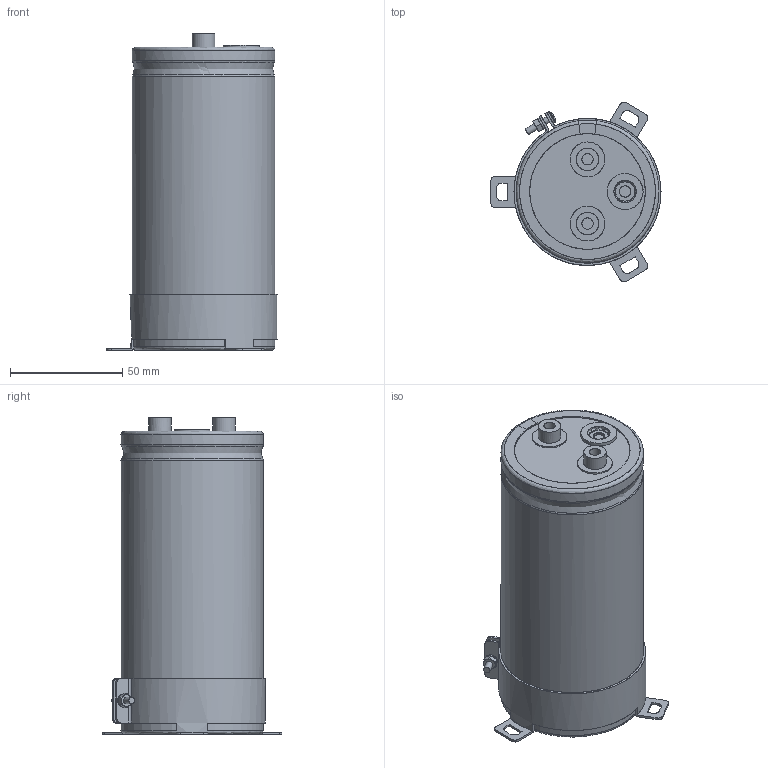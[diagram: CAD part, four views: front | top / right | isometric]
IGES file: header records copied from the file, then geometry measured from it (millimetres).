
Start section: JAMA-IS VERSION  1.0
Bounding box: 75.75 x 80.01 x 141 mm (x, y, z)
Surface area: 101795.3 mm2 (no closed solid volume)
Topology: 0 solids, 0 shells, 259 faces, 4436 edges, 4409 vertices
Faces by surface type: bspline 259
